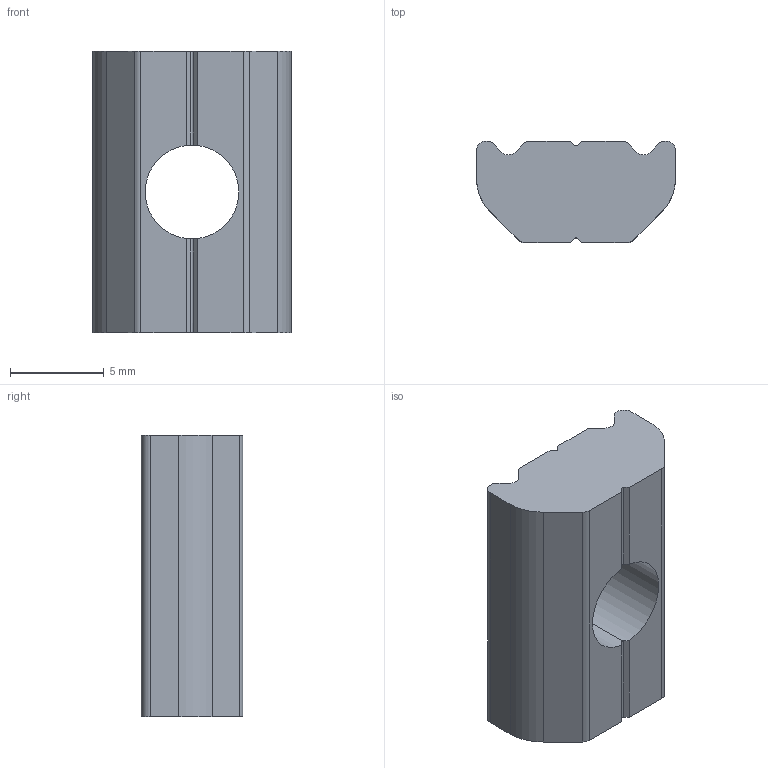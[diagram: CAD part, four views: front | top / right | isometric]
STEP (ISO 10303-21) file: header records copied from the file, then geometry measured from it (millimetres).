
FILE_DESCRIPTION (( 'STEP AP214' ), '1' );
FILE_NAME ('PTN-M6.STEP', '2019-10-30T02:01:40', ( '微软用户' ), ( '微软中国' ), 'SwSTEP 2.0', 'SolidWorks 2016', '' );
FILE_SCHEMA (( 'AUTOMOTIVE_DESIGN' ));
Length unit declared in the file: millimetre
Products named in the file (1): PTN-M6
Bounding box: 10.6 x 5.4 x 15 mm (x, y, z)
Volume: 635.7 mm3; surface area: 592.5 mm2
Topology: 1 solids, 1 shells, 42 faces, 126 edges, 84 vertices
Faces by surface type: plane 24, cylinder 18
Entity records: 1516 total; most frequent: CARTESIAN_POINT 349, ORIENTED_EDGE 252, DIRECTION 228, EDGE_CURVE 126, VERTEX_POINT 84, LINE 78, VECTOR 78, AXIS2_PLACEMENT_3D 75
